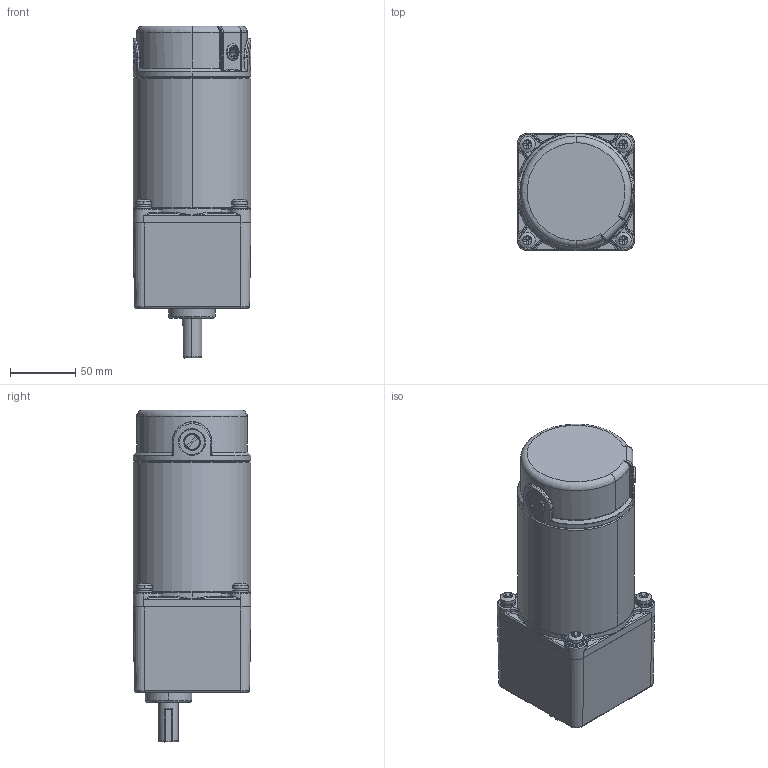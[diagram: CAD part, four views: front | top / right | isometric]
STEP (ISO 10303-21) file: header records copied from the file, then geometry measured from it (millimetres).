
FILE_DESCRIPTION (( 'STEP AP203' ), '1' );
FILE_NAME ('Íâ¾¶90-100»ú¿Ç.STEP', '2021-07-12T07:23:20', ( '' ), ( '' ), 'SwSTEP 2.0', 'SolidWorks 2021', '' );
FILE_SCHEMA (( 'CONFIG_CONTROL_DESIGN' ));
Length unit declared in the file: millimetre
Products named in the file (8): T; P; PRT0003; L; PRT0001; 儂褲100; 俋噤90-100儂褲; 90-3
Assembly tree (20 placements, depth 2):
  俋噤90-100儂褲
    L  x6
    P  x4
    PRT0001
    T  x6
    PRT0003
    90-3
    儂褲100
Bounding box: 90.38 x 90.38 x 254.5 mm (x, y, z)
Volume: 739093.2 mm3; surface area: 168978.7 mm2
Topology: 22 solids, 22 shells, 825 faces, 1946 edges, 1188 vertices
Faces by surface type: cylinder 266, cone 199, plane 179, torus 89, bspline 88, sphere 4
Entity records: 28911 total; most frequent: CARTESIAN_POINT 16079, ORIENTED_EDGE 2558, DIRECTION 2221, EDGE_CURVE 1279, AXIS2_PLACEMENT_3D 928, VERTEX_POINT 779, EDGE_LOOP 600, ADVANCED_FACE 543
